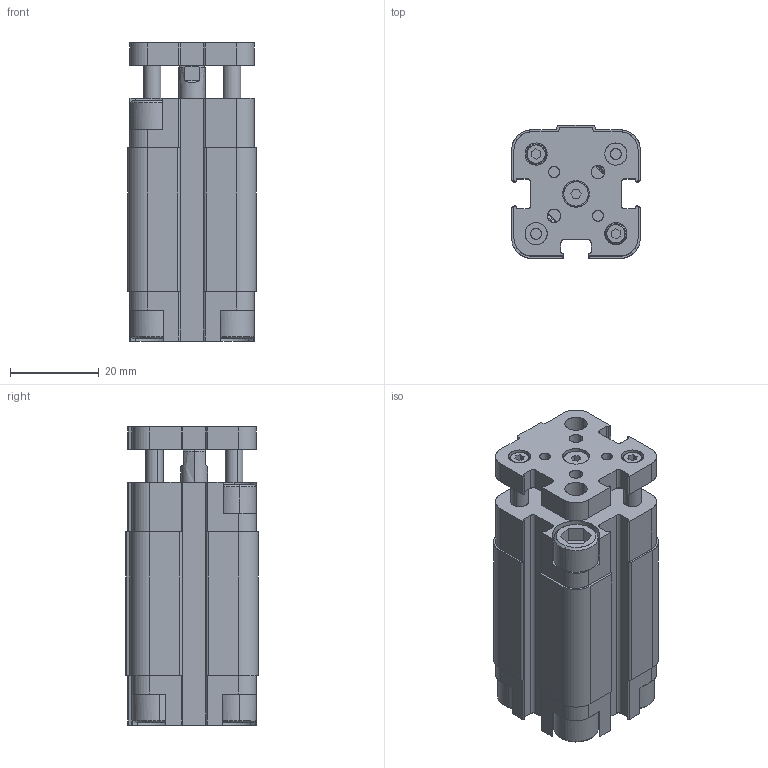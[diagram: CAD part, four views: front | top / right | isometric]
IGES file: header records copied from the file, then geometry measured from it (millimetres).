
Start section: SolidWorks IGES file using analytic representation for surfaces
Global section: file name: K:\Disegni Esecutivi\Cilindri\2_DISEGNI_cilindri_in_produzione\5_Cilindri Compatti\complessivicompatti\QFA\QFA012\QFA012PIENO\QFA0120020A.igs; native system: SolidWorks 2011; preprocessor: SolidWorks 2011; author: Cad01; date: 110923.163657; units: millimetre
Bounding box: 29 x 30 x 67.3 mm (x, y, z)
Surface area: 14769.3 mm2 (no closed solid volume)
Topology: 0 solids, 0 shells, 417 faces, 5059 edges, 5055 vertices
Faces by surface type: bspline 214, revolution 203
